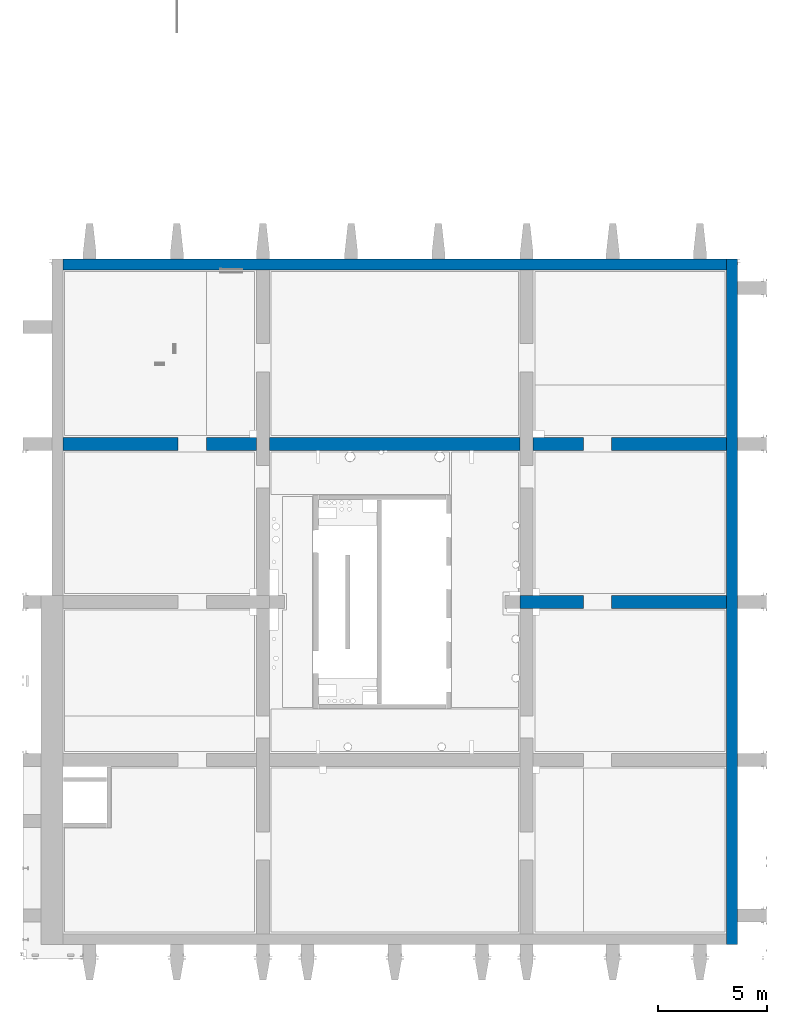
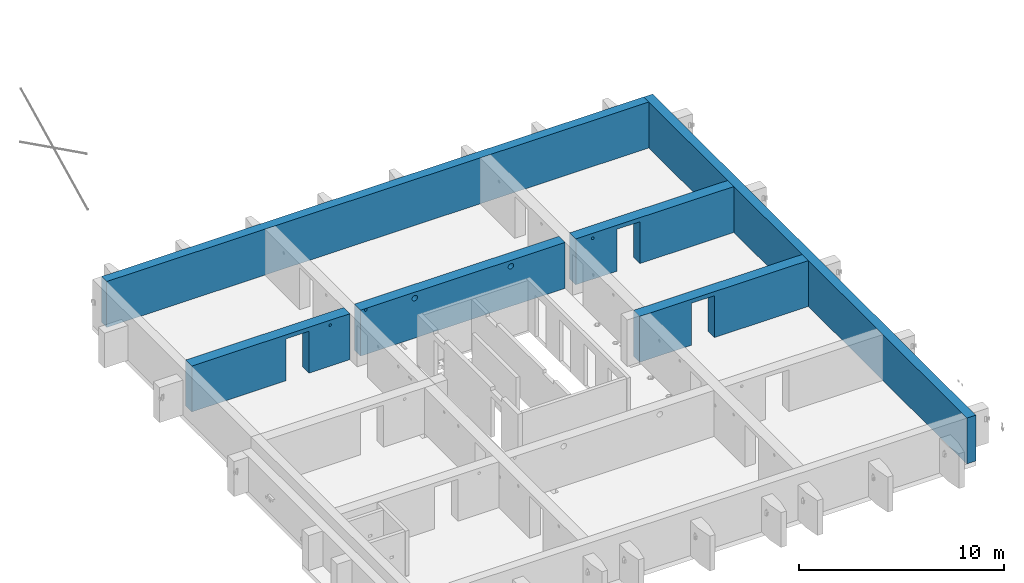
# One storey, part 20 of 22: 4 walls, 10 openings.
"""IFC2X3 building model written with IfcOpenShell, lengths in millimetres."""

from ifc_helpers import new_model, entity, si_unit, converted_unit, derived_unit, direction, frame, frame_2d, origin, origin_2d_with_axis, place, context, subcontext, project, spatial, rectangle, circle, extrude, material, layer, layer_set, layer_usage, type_object, element, save


model = new_model("IFC2X3")

# Units and contexts
model_context = context("Model", 3, precision=0.01, world=origin(), true_north=direction((6.12303176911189e-17, 1.0)))
body_context = subcontext(model_context, "Body", "Model", "MODEL_VIEW")
ifc_project = project(units=[si_unit("LENGTHUNIT", "METRE", prefix="MILLI"), si_unit("AREAUNIT", "SQUARE_METRE"), si_unit("VOLUMEUNIT", "CUBIC_METRE"), converted_unit("PLANEANGLEUNIT", "DEGREE", entity("IfcRatioMeasure", 0.0174532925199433), si_unit("PLANEANGLEUNIT", "RADIAN"), dimensions=[0, 0, 0, 0, 0, 0, 0]), si_unit("MASSUNIT", "GRAM", prefix="KILO"), derived_unit("MASSDENSITYUNIT", [(si_unit("MASSUNIT", "GRAM", prefix="KILO"), 1), (si_unit("LENGTHUNIT", "METRE"), -3)]), si_unit("TIMEUNIT", "SECOND"), si_unit("FREQUENCYUNIT", "HERTZ"), si_unit("THERMODYNAMICTEMPERATUREUNIT", "DEGREE_CELSIUS"), derived_unit("THERMALTRANSMITTANCEUNIT", [(si_unit("MASSUNIT", "GRAM", prefix="KILO"), 1), (si_unit("THERMODYNAMICTEMPERATUREUNIT", "KELVIN"), -1), (si_unit("TIMEUNIT", "SECOND"), -3)]), derived_unit("VOLUMETRICFLOWRATEUNIT", [(si_unit("LENGTHUNIT", "METRE"), 3), (si_unit("TIMEUNIT", "SECOND"), -1)]), si_unit("ELECTRICCURRENTUNIT", "AMPERE"), si_unit("ELECTRICVOLTAGEUNIT", "VOLT"), si_unit("POWERUNIT", "WATT"), si_unit("FORCEUNIT", "NEWTON", prefix="KILO"), si_unit("ILLUMINANCEUNIT", "LUX"), si_unit("LUMINOUSFLUXUNIT", "LUMEN"), si_unit("LUMINOUSINTENSITYUNIT", "CANDELA"), derived_unit("USERDEFINED", [(si_unit("MASSUNIT", "GRAM", prefix="KILO"), -1), (si_unit("LENGTHUNIT", "METRE"), -2), (si_unit("TIMEUNIT", "SECOND"), 3), (si_unit("LUMINOUSFLUXUNIT", "LUMEN"), 1)]), derived_unit("LINEARVELOCITYUNIT", [(si_unit("LENGTHUNIT", "METRE"), 1), (si_unit("TIMEUNIT", "SECOND"), -1)]), si_unit("PRESSUREUNIT", "PASCAL"), derived_unit("USERDEFINED", [(si_unit("LENGTHUNIT", "METRE"), -2), (si_unit("MASSUNIT", "GRAM", prefix="KILO"), 1), (si_unit("TIMEUNIT", "SECOND"), -2)])], contexts=[model_context])

# Site, building, storey
site_placement = place(None, origin())
site = spatial("IfcSite", under=ifc_project, at=site_placement, Name="Default", CompositionType="ELEMENT")
building_placement = place(site_placement, origin())
building = spatial("IfcBuilding", under=site, at=building_placement, Name="niet gebruiken", CompositionType="ELEMENT")
storey_placement = place(building_placement, frame((0.0, 0.0, 15000.0)))
storey = spatial("IfcBuildingStorey", under=building, at=storey_placement, Name="04 vierde verdieping", CompositionType="ELEMENT", Elevation=15000.0)

# Wall, opening
ifc_material = material(Name="NLRS_f2_beton ihwg")
ifc_layer_1 = layer(ifc_material, 600.0)
ifc_layer_set_1 = layer_set([ifc_layer_1], Name="Basic Wall:NLRS_22.21_WA_beton ihwg d=600_gen")
ifc_layer_usage_1 = layer_usage(ifc_layer_set_1, "AXIS2", "NEGATIVE", 300.0)
wall_type_1 = type_object("IfcWallType", Name="Basic Wall:NLRS_22.21_WA_beton ihwg d=600_gen", PredefinedType="STANDARD", material=ifc_layer_set_1)
wall_1_placement = place(storey_placement, frame((156980.0, 17500.0, -90.0), z_axis=(0.0, 0.0, 1.0), x_axis=(-1.0, 0.0, 0.0)))
wall_1 = element("IfcWallStandardCase", 1, at=wall_1_placement, inside=storey, type_object=wall_type_1, material=ifc_layer_usage_1, Name="Basic Wall:NLRS_22.21_WA_beton ihwg d=600_gen", ObjectType="Basic Wall:NLRS_22.21_WA_beton ihwg d=600_gen", context=body_context, shape_type="SweptSolid", body=[
    extrude(rectangle(XDim=9479.99999999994, YDim=599.999999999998, at=frame_2d((4739.99999999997, 2.8421709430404e-14), x_axis=(-1.0, 0.0))), origin(), (0.0, 0.0, 1.0), 2730.0),
])
opening_1_placement = place(wall_1_placement, origin())
element("IfcOpeningElement", 2, at=opening_1_placement, cuts=wall_1, Name="Basic Wall:NLRS_22.21_WA_beton ihwg d=600_gen", ObjectType="Opening", context=body_context, shape_type="SweptSolid", body=[
    extrude(rectangle(XDim=2490.0, YDim=1300.00000000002, at=origin_2d_with_axis()), frame((5930.0, -300.0, 1245.0), z_axis=(0.0, 1.0, 0.0), x_axis=(0.0, 0.0, -1.0)), (0.0, 0.0, 1.0), 599.999999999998),
])

# Wall, openings
ifc_layer_usage_2 = layer_usage(ifc_layer_set_1, "AXIS2", "NEGATIVE", 300.0)
wall_2_placement = place(storey_placement, frame((156980.0, 24750.0, -90.0), z_axis=(0.0, 0.0, 1.0), x_axis=(-1.0, 0.0, 0.0)))
wall_2 = element("IfcWallStandardCase", 3, at=wall_2_placement, inside=storey, type_object=wall_type_1, material=ifc_layer_usage_2, Name="Basic Wall:NLRS_22.21_WA_beton ihwg d=600_gen", ObjectType="Basic Wall:NLRS_22.21_WA_beton ihwg d=600_gen", context=body_context, shape_type="SweptSolid", body=[
    extrude(rectangle(XDim=30460.0000000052, YDim=600.000000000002, at=frame_2d((15230.0000000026, -7.95807864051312e-13), x_axis=(-1.0, 0.0))), origin(), (0.0, 0.0, 1.0), 2730.0),
])
opening_2_placement = place(storey_placement, frame((156980.0, 24750.0, -90.0), z_axis=(0.0, 0.0, 1.0), x_axis=(-1.0, 0.0, 0.0)))
element("IfcOpeningElement", 4, at=opening_2_placement, cuts=wall_2, Name="Basic Wall:NLRS_22.21_WA_beton ihwg d=600_gen:1", ObjectType="Opening", context=body_context, shape_type="SweptSolid", body=[
    extrude(rectangle(XDim=2730.0, YDim=599.999999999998, at=frame_2d((1.13686837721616e-12, 2.1600499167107e-12), x_axis=(1.0, 0.0))), frame((9480.0, 0.0, 1365.0), z_axis=(-1.0, 0.0, 0.0), x_axis=(0.0, 0.0, 1.0)), (0.0, 0.0, 1.0), 600.000000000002),
])
opening_3_placement = place(storey_placement, frame((156980.0, 24750.0, -90.0), z_axis=(0.0, 0.0, 1.0), x_axis=(-1.0, 0.0, 0.0)))
element("IfcOpeningElement", 5, at=opening_3_placement, cuts=wall_2, Name="Basic Wall:NLRS_22.21_WA_beton ihwg d=600_gen:2", ObjectType="Opening", context=body_context, shape_type="SweptSolid", body=[
    extrude(rectangle(XDim=2730.0, YDim=599.999999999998, at=frame_2d((1.13686837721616e-12, -2.1600499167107e-12), x_axis=(1.0, 0.0))), frame((21580.0, 0.0, 1365.0), z_axis=(-1.0, 0.0, 0.0), x_axis=(0.0, 0.0, 1.0)), (0.0, 0.0, 1.0), 600.000000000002),
])
opening_4_placement = place(wall_2_placement, origin())
element("IfcOpeningElement", 6, at=opening_4_placement, cuts=wall_2, Name="Basic Wall:NLRS_22.21_WA_beton ihwg d=600_gen", ObjectType="Opening", context=body_context, shape_type="SweptSolid", body=[
    extrude(rectangle(XDim=2490.0, YDim=1300.0, at=frame_2d((-8.69704308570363e-12, 0.0), x_axis=(0.0, 1.0))), frame((24530.0, -300.0, 1245.0), z_axis=(0.0, 1.0, 0.0), x_axis=(1.0, 0.0, 0.0)), (0.0, 0.0, 1.0), 600.000000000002),
])
opening_5_placement = place(wall_2_placement, origin())
element("IfcOpeningElement", 7, at=opening_5_placement, cuts=wall_2, Name="Basic Wall:NLRS_22.21_WA_beton ihwg d=600_gen", ObjectType="Opening", context=body_context, shape_type="SweptSolid", body=[
    extrude(rectangle(XDim=2490.00000000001, YDim=1300.0, at=frame_2d((1.02318153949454e-12, -8.69704308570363e-12), x_axis=(1.0, 0.0))), frame((5930.0, -300.0, 1245.0), z_axis=(0.0, 1.0, 0.0), x_axis=(0.0, 0.0, -1.0)), (0.0, 0.0, 1.0), 600.000000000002),
])
opening_6_placement = place(wall_2_placement, origin())
element("IfcOpeningElement", 8, at=opening_6_placement, cuts=wall_2, Name="Basic Wall:NLRS_22.21_WA_beton ihwg d=600_gen", ObjectType="Opening", context=body_context, shape_type="SweptSolid", body=[
    extrude(circle(Radius=80.0, at=origin_2d_with_axis()), frame((22680.0, -300.0, 2440.0), z_axis=(0.0, 1.0, 0.0), x_axis=(-1.0, 0.0, 0.0)), (0.0, 0.0, 1.0), 600.000000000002),
])
opening_7_placement = place(wall_2_placement, origin())
element("IfcOpeningElement", 9, at=opening_7_placement, cuts=wall_2, Name="Basic Wall:NLRS_22.21_WA_beton ihwg d=600_gen", ObjectType="Opening", context=body_context, shape_type="SweptSolid", body=[
    extrude(circle(Radius=157.5, at=origin_2d_with_axis()), frame((17930.0001494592, -300.0, 2379.99993150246), z_axis=(0.0, 1.0, 0.0), x_axis=(-1.0, 0.0, 0.0)), (0.0, 0.0, 1.0), 600.000000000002),
])
opening_8_placement = place(wall_2_placement, origin())
element("IfcOpeningElement", 10, at=opening_8_placement, cuts=wall_2, Name="Basic Wall:NLRS_22.21_WA_beton ihwg d=600_gen", ObjectType="Opening", context=body_context, shape_type="SweptSolid", body=[
    extrude(circle(Radius=157.5, at=origin_2d_with_axis()), frame((12530.0, -300.0, 2379.99993150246), z_axis=(0.0, 1.0, 0.0), x_axis=(-1.0, 0.0, 0.0)), (0.0, 0.0, 1.0), 600.000000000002),
])
opening_9_placement = place(wall_2_placement, origin())
element("IfcOpeningElement", 11, at=opening_9_placement, cuts=wall_2, Name="Basic Wall:NLRS_22.21_WA_beton ihwg d=600_gen", ObjectType="Opening", context=body_context, shape_type="SweptSolid", body=[
    extrude(circle(Radius=80.0, at=origin_2d_with_axis()), frame((7930.0, -300.0, 2440.0), z_axis=(0.0, 1.0, 0.0), x_axis=(-1.0, 0.0, 0.0)), (0.0, 0.0, 1.0), 600.000000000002),
])
opening_10_placement = place(wall_2_placement, origin())
element("IfcOpeningElement", 12, at=opening_10_placement, cuts=wall_2, Name="Basic Wall:NLRS_22.21_WA_beton ihwg d=600_gen", ObjectType="Opening", context=body_context, shape_type="SweptSolid", body=[
    extrude(circle(Radius=80.0, at=origin_2d_with_axis()), frame((20680.0, -300.0, 2640.0), z_axis=(0.0, 1.0, 0.0), x_axis=(1.0, 0.0, 0.0)), (0.0, 0.0, 1.0), 600.000000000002),
])

# Walls
ifc_layer_2 = layer(ifc_material, 500.0)
ifc_layer_set_2 = layer_set([ifc_layer_2], Name="Basic Wall:NLRS_21.21_WA_beton ihwg d=500_gen")
ifc_layer_usage_3 = layer_usage(ifc_layer_set_2, "AXIS2", "NEGATIVE", 250.0)
wall_type_2 = type_object("IfcWallType", Name="Basic Wall:NLRS_21.21_WA_beton ihwg d=500_gen", PredefinedType="STANDARD", material=ifc_layer_set_2)
wall_3_placement = place(storey_placement, frame((157230.0, 33230.0, -90.0), z_axis=(0.0, 0.0, 1.0), x_axis=(0.0, -1.0, 0.0)))
element("IfcWallStandardCase", 13, at=wall_3_placement, inside=storey, type_object=wall_type_2, material=ifc_layer_usage_3, Name="Basic Wall:NLRS_21.21_WA_beton ihwg d=500_gen", ObjectType="Basic Wall:NLRS_21.21_WA_beton ihwg d=500_gen", context=body_context, shape_type="SweptSolid", body=[
    extrude(rectangle(XDim=31460.0000000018, YDim=500.000000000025, at=frame_2d((15730.0000000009, -1.27897692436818e-13), x_axis=(-1.0, 0.0))), origin(), (0.0, 0.0, 1.0), 2730.0),
])
ifc_layer_usage_4 = layer_usage(ifc_layer_set_2, "AXIS2", "NEGATIVE", 250.0)
wall_4_placement = place(storey_placement, frame((126520.0, 32980.0, -90.0)))
element("IfcWallStandardCase", 14, at=wall_4_placement, inside=storey, type_object=wall_type_2, material=ifc_layer_usage_4, Name="Basic Wall:NLRS_21.21_WA_beton ihwg d=500_gen", ObjectType="Basic Wall:NLRS_21.21_WA_beton ihwg d=500_gen", context=body_context, shape_type="SweptSolid", body=[
    extrude(rectangle(XDim=30460.0000000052, YDim=499.999999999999, at=frame_2d((15230.0000000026, 1.30739863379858e-12), x_axis=(-1.0, 0.0))), origin(), (0.0, 0.0, 1.0), 2730.0),
])

save(model, "model.ifc")
